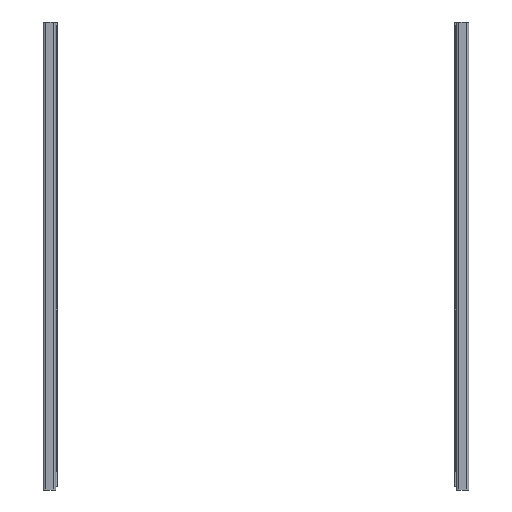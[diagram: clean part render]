
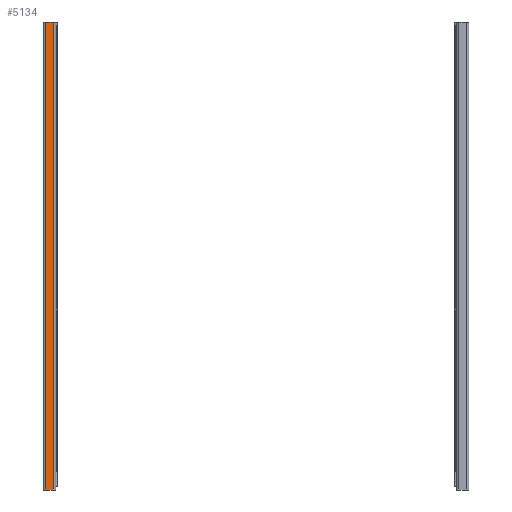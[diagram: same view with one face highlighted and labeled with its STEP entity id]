
A CAD part, front view. The second image highlights one B-rep face of the part: STEP entity #5134.
In plain terms, the highlighted planar face has unit normal (0, -1, 0).
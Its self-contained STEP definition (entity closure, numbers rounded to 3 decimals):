
#203=PLANE('',#5497);
#381=FACE_OUTER_BOUND('',#679,.T.);
#679=EDGE_LOOP('',(#3885,#3886,#3887,#3888));
#965=LINE('',#7700,#1431);
#1086=LINE('',#7969,#1552);
#1087=LINE('',#7973,#1553);
#1088=LINE('',#7974,#1554);
#1431=VECTOR('',#6116,6.8);
#1552=VECTOR('',#6465,400.);
#1553=VECTOR('',#6470,400.);
#1554=VECTOR('',#6471,6.8);
#2231=VERTEX_POINT('',#7697);
#2232=VERTEX_POINT('',#7699);
#2266=VERTEX_POINT('',#7968);
#2267=VERTEX_POINT('',#7972);
#2726=EDGE_CURVE('',#2231,#2232,#965,.T.);
#2856=EDGE_CURVE('',#2266,#2232,#1086,.T.);
#2858=EDGE_CURVE('',#2231,#2267,#1087,.T.);
#2859=EDGE_CURVE('',#2266,#2267,#1088,.T.);
#3885=ORIENTED_EDGE('',*,*,#2856,.T.);
#3886=ORIENTED_EDGE('',*,*,#2726,.F.);
#3887=ORIENTED_EDGE('',*,*,#2858,.T.);
#3888=ORIENTED_EDGE('',*,*,#2859,.F.);
#5134=ADVANCED_FACE('',(#381),#203,.T.);
#5497=AXIS2_PLACEMENT_3D('',#7971,#6468,#6469);
#6116=DIRECTION('',(-1.,0.,0.));
#6465=DIRECTION('',(0.,0.,-1.));
#6468=DIRECTION('center_axis',(0.,-1.,0.));
#6469=DIRECTION('ref_axis',(-1.,0.,0.));
#6470=DIRECTION('',(0.,0.,1.));
#6471=DIRECTION('',(1.,0.,0.));
#7697=CARTESIAN_POINT('',(8.8,-17.4,-400.));
#7699=CARTESIAN_POINT('',(2.,-17.4,-400.));
#7700=CARTESIAN_POINT('',(0.,-17.4,-400.));
#7968=CARTESIAN_POINT('',(2.,-17.4,0.));
#7969=CARTESIAN_POINT('',(2.,-17.4,0.));
#7971=CARTESIAN_POINT('Origin',(10.8,-17.4,0.));
#7972=CARTESIAN_POINT('',(8.8,-17.4,0.));
#7973=CARTESIAN_POINT('',(8.8,-17.4,0.));
#7974=CARTESIAN_POINT('',(0.,-17.4,0.));
